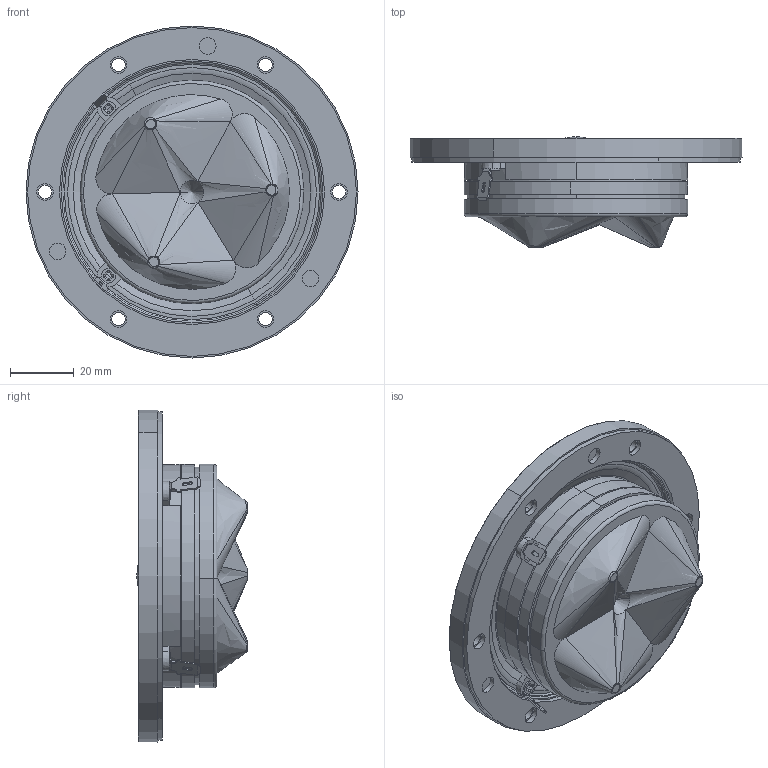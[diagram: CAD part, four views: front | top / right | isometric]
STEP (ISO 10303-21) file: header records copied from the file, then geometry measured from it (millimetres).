
FILE_DESCRIPTION (( 'STEP AP214' ), '1' );
FILE_NAME ('D2904-710003.STEP', '2020-11-24T09:52:43', ( '' ), ( '' ), 'SwSTEP 2.0', 'SolidWorks 2019', '' );
FILE_SCHEMA (( 'AUTOMOTIVE_DESIGN' ));
Length unit declared in the file: millimetre
Products named in the file (1): D2904-710003
Bounding box: 104 x 34.65 x 104 mm (x, y, z)
Volume: 115056.7 mm3; surface area: 33835.2 mm2
Topology: 1 solids, 8 shells, 467 faces, 1159 edges, 738 vertices
Faces by surface type: cylinder 181, plane 144, torus 54, bspline 54, cone 24, sphere 10
Entity records: 21324 total; most frequent: CARTESIAN_POINT 5462, ORIENTED_EDGE 2310, DIRECTION 2224, EDGE_CURVE 1155, AXIS2_PLACEMENT_3D 878, VERTEX_POINT 738, EDGE_LOOP 523, LINE 468
